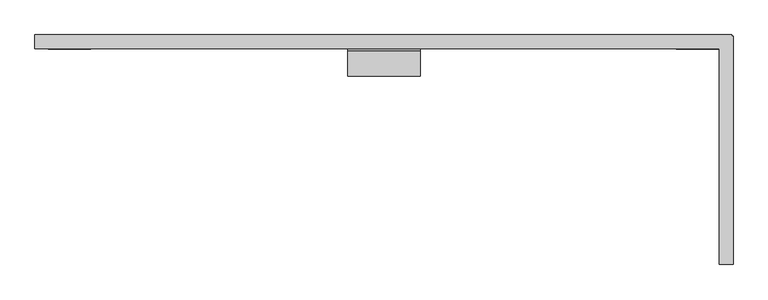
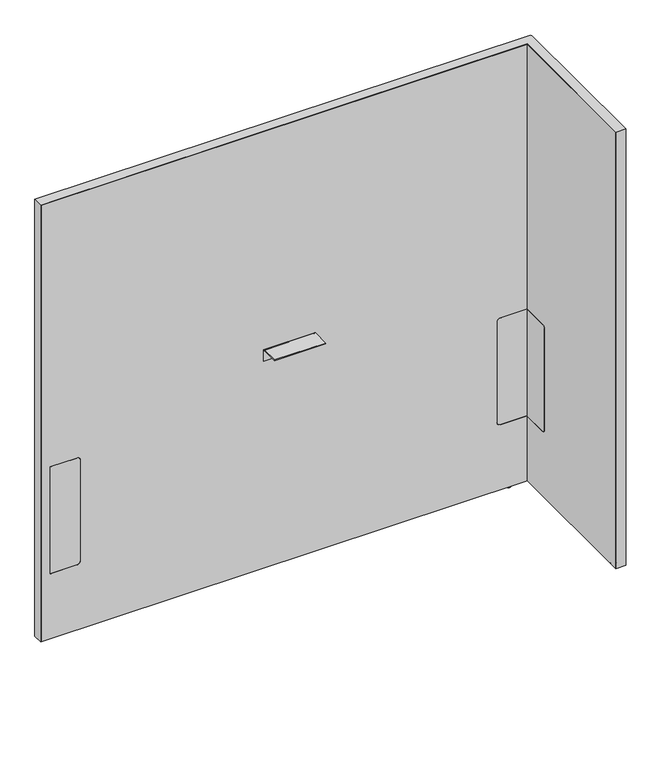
"""IFC4 building model written with IfcOpenShell, lengths in millimetres: furniture geometry, Steelcase - Answer Solution - Boundary Screen - L Return - Single Sided : 54H x 57W."""

from ifc_helpers import new_model, si_unit, point, frame, frame_2d, origin, place, context, project, spatial, polyline, circle_curve, ellipse_curve, trimmed, segment, composite_curve, outline, extrude, faceted_brep, source, transform, mapped, element, save
from ifc_brep_helpers import plane_surface, cylinder_surface, revolved_surface, advanced_brep


def furniture_e89757b0(model_context):
    return source(origin(), model_context, "Body", "SolidModel", [
        extrude(outline(composite_curve([segment(polyline([(-109.3501471, 549.6162029), (-29.0550397, 549.6162029), (-29.0550397, 213.7762137), (-109.3501471, 213.7762137)]), True, "CONTINUOUS"), segment(trimmed(circle_curve(frame_2d((-109.3501471, 223.9362137)), 10.16), [point((-109.3501471, 213.7762137))], [point((-119.5101471, 223.9362137))], False, "CARTESIAN"), True, "CONTINUOUS"), segment(polyline([(-119.5101471, 223.9362137), (-119.5101471, 539.4562029)]), True, "CONTINUOUS"), segment(trimmed(circle_curve(frame_2d((-109.3501471, 539.4562029)), 10.16), [point((-119.5101471, 539.4562029))], [point((-109.3501471, 549.6162029))], False, "CARTESIAN"), True, "CONTINUOUS")], self_intersect=False)), frame((1677.6191891, 0.0, 0.0), z_axis=(1.0, 0.0, 0.0), x_axis=(0.0, 1.0, 0.0)), (0.0, 0.0, 1.0), 0.6401544),
        advanced_brep(
        [(1692.4672074, -448.0136072, 0.0), (1699.4216144, -448.0136072, 0.0), (1685.5128003, -448.0136072, 0.0), (1700.8762685, -448.0136072, 1.2700001), (1684.0581463, -448.0136072, 1.2700001), (1700.8762685, -448.0136072, 2.9673238), (1684.0581463, -448.0136072, 2.9673238), (1701.8427877, -448.0136072, 2.9673238), (1683.091627, -448.0136072, 2.9673238), (1701.8427877, -448.0136072, 9.9059849), (1683.091627, -448.0136072, 9.9059849), (1692.4672074, -448.0136072, 9.9059849)],
        [
            (0, 1),
            (1, 2, circle_curve(frame((1692.4672074, -448.0136072, 0.0), z_axis=(0.0, 0.0, -1.0), x_axis=(1.0, 0.0, 0.0)), 6.9544071)),
            (2, 0),
            (2, 1, circle_curve(frame((1692.4672074, -448.0136072, 0.0), z_axis=(0.0, 0.0, -1.0), x_axis=(1.0, 0.0, 0.0)), 6.9544071)),
            (1, 3, circle_curve(frame((1699.5945484, -448.0136072, 1.2700001), z_axis=(0.0, -1.0, 0.0), x_axis=(0.0, 0.0, 1.0)), 1.2817201)),
            (3, 4, circle_curve(frame((1692.4672074, -448.0136072, 1.2700001), z_axis=(0.0, 0.0, -1.0), x_axis=(1.0, 0.0, 0.0)), 8.4090611)),
            (4, 2, circle_curve(frame((1685.3398663, -448.0136072, 1.2700001), z_axis=(0.0, -1.0, 0.0), x_axis=(0.0, 0.0, 1.0)), 1.2817201)),
            (4, 3, circle_curve(frame((1692.4672074, -448.0136072, 1.2700001), z_axis=(0.0, 0.0, -1.0), x_axis=(1.0, 0.0, 0.0)), 8.4090611)),
            (3, 5),
            (5, 6, circle_curve(frame((1692.4672074, -448.0136072, 2.9673238), z_axis=(0.0, 0.0, -1.0), x_axis=(1.0, 0.0, 0.0)), 8.4090611)),
            (6, 4),
            (6, 5, circle_curve(frame((1692.4672074, -448.0136072, 2.9673238), z_axis=(0.0, 0.0, -1.0), x_axis=(1.0, 0.0, 0.0)), 8.4090611)),
            (5, 7),
            (7, 8, circle_curve(frame((1692.4672074, -448.0136072, 2.9673238), z_axis=(0.0, 0.0, -1.0), x_axis=(1.0, 0.0, 0.0)), 9.3755804)),
            (8, 6),
            (8, 7, circle_curve(frame((1692.4672074, -448.0136072, 2.9673238), z_axis=(0.0, 0.0, -1.0), x_axis=(1.0, 0.0, 0.0)), 9.3755804)),
            (7, 9),
            (9, 10, circle_curve(frame((1692.4672074, -448.0136072, 9.9059849), z_axis=(0.0, 0.0, -1.0), x_axis=(1.0, 0.0, 0.0)), 9.3755804)),
            (10, 8),
            (10, 9, circle_curve(frame((1692.4672074, -448.0136072, 9.9059849), z_axis=(0.0, 0.0, -1.0), x_axis=(1.0, 0.0, 0.0)), 9.3755804)),
            (9, 11),
            (11, 10),
        ],
        [
            plane_surface(frame((1692.4672074, -448.0136072, 0.0), z_axis=(0.0, 0.0, -1.0), x_axis=(1.0, 0.0, 0.0))),
            revolved_surface(trimmed(ellipse_curve(frame((1699.5945484, -448.0136072, 1.2700001), z_axis=(0.0, 1.0, 0.0), x_axis=(0.0, 0.0, 1.0)), 1.2817201, 1.2817201), [point((1700.8762685, -448.0136072, 1.2700001))], [point((1699.4216144, -448.0136072, 0.0))], True, "CARTESIAN"), (1692.4672074, -448.0136072, 9.9059849), (0.0, 0.0, -1.0)),
            cylinder_surface(frame((1692.4672074, -448.0136072, 9.9059849), z_axis=(0.0, 0.0, -1.0), x_axis=(1.0, 0.0, 0.0)), 8.4090611),
            plane_surface(frame((1692.4672074, -448.0136072, 2.9673238), z_axis=(0.0, 0.0, -1.0), x_axis=(1.0, 0.0, 0.0))),
            cylinder_surface(frame((1692.4672074, -448.0136072, 9.9059849), z_axis=(0.0, 0.0, -1.0), x_axis=(1.0, 0.0, 0.0)), 9.3755804),
            plane_surface(frame((1692.4672074, -448.0136072, 9.9059849), z_axis=(0.0, 0.0, 1.0), x_axis=(1.0, 0.0, 0.0))),
        ],
        [
            (0, [[1, 2, 3]]),
            (0, [[-3, 4, -1]]),
            (1, [[-2, 5, 6, 7]]),
            (1, [[-4, -7, 8, -5]]),
            (2, [[-6, 9, 10, 11]]),
            (2, [[-8, -11, 12, -9]]),
            (3, [[-10, 13, 14, 15]]),
            (3, [[-12, -15, 16, -13]]),
            (4, [[-14, 17, 18, 19]]),
            (4, [[-16, -19, 20, -17]]),
            (5, [[-18, 21, 22]]),
            (5, [[-20, -22, -21]]),
        ],
    ),
        faceted_brep([(1704.0531179, 0.0, 1382.522), (1704.0531179, 0.0, 9.9059849), (1703.0621491, 0.0, 9.9059849), (1703.0621491, 0.0, 1381.542118), (230.8097779, 0.0, 1381.542118), (230.8097779, 0.0, 9.9059849), (229.8191891, 0.0, 9.9059849), (229.8191891, 0.0, 1382.522), (229.8191891, -29.6898332, 1382.522), (229.8191891, -29.6898332, 9.9059849), (230.8097779, -29.6898332, 9.9059849), (230.8097779, -29.6898332, 1381.542118), (1677.6191891, -29.6898332, 1381.542118), (1677.6191891, -29.6898332, 1382.522), (1703.0621491, -29.6898332, 1381.542118), (1703.0621491, -29.6898332, 9.9059849), (1704.0531179, -29.6898332, 9.9059849), (1704.0531179, -29.6898332, 1381.542118), (1704.0531179, -3.2625916, 1382.522), (1704.0531179, -3.2625916, 9.9059849), (1704.0531179, -4.252647, 9.9059849), (1704.0531179, -4.252647, 1381.542118), (1707.3152256, -3.2625916, 9.9059849), (1707.3152256, -4.252647, 9.9059849), (1703.0621491, -4.252647, 9.9059849), (1677.6191891, -4.252647, 9.9059849), (1677.6191891, -3.2625916, 9.9059849), (1703.0621491, -3.2625916, 9.9059849), (1677.6191891, -486.8898332, 1382.522), (1707.3152256, -486.8898332, 1382.522), (1707.3152256, -3.2625916, 1382.522), (1703.0621491, -3.2625916, 1381.542118), (1703.0621491, -4.252647, 1381.542118), (1677.6191891, -3.2625916, 1381.542118), (1677.6191891, -4.252647, 1381.542118), (1707.3152256, -4.252647, 1381.542118), (1707.3152256, -485.899196, 1381.542118), (1677.6191891, -485.899196, 1381.542118), (1677.6191891, -485.899196, 9.9059849), (1677.6191891, -486.8898332, 9.9059849), (1707.3152256, -486.8898332, 9.9059849), (1707.3152256, -485.899196, 9.9059849)], [[[0, 1, 2, 3, 4, 5, 6, 7]], [[8, 9, 10, 11, 12, 13]], [[14, 15, 16, 17]], [[1, 0, 18, 19]], [[17, 16, 20, 21]], [[2, 1, 19, 22, 23, 20, 16, 15, 24, 25, 26, 27]], [[7, 6, 9, 8]], [[0, 7, 8, 13, 28, 29, 30, 18]], [[3, 2, 27, 31]], [[15, 14, 32, 24]], [[4, 3, 31, 33, 34, 32, 14, 17, 21, 35, 36, 37, 12, 11]], [[5, 4, 11, 10]], [[6, 5, 10, 9]], [[26, 25, 34, 33]], [[37, 38, 39, 28, 13, 12]], [[29, 40, 41, 36, 35, 23, 22, 30]], [[27, 26, 33, 31]], [[30, 22, 19, 18]], [[34, 25, 24, 32]], [[23, 35, 21, 20]], [[38, 37, 36, 41]], [[39, 38, 41, 40]], [[28, 39, 40, 29]]]),
        extrude(outline(composite_curve([segment(polyline([(-86.8398151, 696.4680019), (-86.8398151, 698.5), (-34.9450855, 698.5)]), True, "CONTINUOUS"), segment(trimmed(circle_curve(frame_2d((-34.9450855, 693.2447477)), 5.2552523), [point((-34.9450855, 698.5))], [point((-29.6898332, 693.2447477))], False, "CARTESIAN"), True, "CONTINUOUS"), segment(polyline([(-29.6898332, 693.2447477), (-29.6898332, 660.4), (-31.7218162, 660.4), (-31.7218162, 693.0058743)]), True, "CONTINUOUS"), segment(trimmed(circle_curve(frame_2d((-35.1839438, 693.0058743)), 3.4621276), [point((-31.7218162, 693.0058743))], [point((-35.1839438, 696.4680019))], True, "CARTESIAN"), True, "CONTINUOUS"), segment(polyline([(-35.1839438, 696.4680019), (-86.8398151, 696.4680019)]), True, "CONTINUOUS")], self_intersect=False)), frame((892.3685899, 0.0, 0.0), z_axis=(1.0, 0.0, 0.0), x_axis=(0.0, 1.0, 0.0)), (0.0, 0.0, 1.0), 152.4000969),
        advanced_brep(
        [(1630.1246853, -23.7588726, 9.9059849), (1630.1246853, -5.9309607, 9.9059849), (1630.1246853, -14.8449166, 9.9059849), (1630.1246853, -23.7588726, 2.9673238), (1630.1246853, -5.9309607, 2.9673238), (1630.1246853, -22.7915354, 2.9673238), (1630.1246853, -6.8982978, 2.9673238), (1630.1246853, -22.7915354, 1.6569081), (1630.1246853, -6.8982978, 1.6569081), (1630.1246853, -21.1346274, 0.0), (1630.1246853, -8.5552059, 0.0), (1630.1246853, -14.8449166, 0.0)],
        [
            (0, 1, circle_curve(frame((1630.1246853, -14.8449166, 9.9059849), z_axis=(0.0, 0.0, 1.0), x_axis=(0.0, 1.0, 0.0)), 8.913956)),
            (1, 2),
            (2, 0),
            (1, 0, circle_curve(frame((1630.1246853, -14.8449166, 9.9059849), z_axis=(0.0, 0.0, 1.0), x_axis=(0.0, 1.0, 0.0)), 8.913956)),
            (3, 4, circle_curve(frame((1630.1246853, -14.8449166, 2.9673238), z_axis=(0.0, 0.0, 1.0), x_axis=(0.0, 1.0, 0.0)), 8.913956)),
            (4, 1),
            (0, 3),
            (4, 3, circle_curve(frame((1630.1246853, -14.8449166, 2.9673238), z_axis=(0.0, 0.0, 1.0), x_axis=(0.0, 1.0, 0.0)), 8.913956)),
            (5, 6, circle_curve(frame((1630.1246853, -14.8449166, 2.9673238), z_axis=(0.0, 0.0, 1.0), x_axis=(0.0, 1.0, 0.0)), 7.9466188)),
            (6, 4),
            (3, 5),
            (6, 5, circle_curve(frame((1630.1246853, -14.8449166, 2.9673238), z_axis=(0.0, 0.0, 1.0), x_axis=(0.0, 1.0, 0.0)), 7.9466188)),
            (7, 8, circle_curve(frame((1630.1246853, -14.8449166, 1.6569081), z_axis=(0.0, 0.0, 1.0), x_axis=(0.0, 1.0, 0.0)), 7.9466188)),
            (8, 6),
            (5, 7),
            (8, 7, circle_curve(frame((1630.1246853, -14.8449166, 1.6569081), z_axis=(0.0, 0.0, 1.0), x_axis=(0.0, 1.0, 0.0)), 7.9466188)),
            (9, 10, circle_curve(frame((1630.1246853, -14.8449166, 0.0), z_axis=(0.0, 0.0, 1.0), x_axis=(0.0, 1.0, 0.0)), 6.2897107)),
            (10, 8, circle_curve(frame((1630.1246853, -8.5552059, 1.6569081), z_axis=(1.0, 0.0, 0.0), x_axis=(0.0, 1.0, 0.0)), 1.6569081)),
            (7, 9, circle_curve(frame((1630.1246853, -21.1346274, 1.6569081), z_axis=(1.0, 0.0, 0.0), x_axis=(0.0, -1.0, 0.0)), 1.6569081)),
            (10, 9, circle_curve(frame((1630.1246853, -14.8449166, 0.0), z_axis=(0.0, 0.0, 1.0), x_axis=(0.0, 1.0, 0.0)), 6.2897107)),
            (11, 10),
            (9, 11),
        ],
        [
            plane_surface(frame((1630.1246853, -14.8449166, 9.9059849), z_axis=(0.0, 0.0, 1.0), x_axis=(0.0, 1.0, 0.0))),
            cylinder_surface(frame((1630.1246853, -14.8449166, 9.9059849), z_axis=(0.0, 0.0, -1.0), x_axis=(0.0, 1.0, 0.0)), 8.913956),
            plane_surface(frame((1630.1246853, -14.8449166, 2.9673238), z_axis=(0.0, 0.0, -1.0), x_axis=(0.0, 1.0, 0.0))),
            cylinder_surface(frame((1630.1246853, -14.8449166, 9.9059849), z_axis=(0.0, 0.0, -1.0), x_axis=(0.0, 1.0, 0.0)), 7.9466188),
            revolved_surface(trimmed(ellipse_curve(frame((1630.1246853, -8.5552059, 1.6569081), z_axis=(-1.0, 0.0, 0.0), x_axis=(0.0, 1.0, 0.0)), 1.6569081, 1.6569081), [point((1630.1246853, -6.8982978, 1.6569081))], [point((1630.1246853, -8.5552059, 0.0))], True, "CARTESIAN"), (1630.1246853, -14.8449166, 9.9059849), (0.0, 0.0, -1.0)),
            plane_surface(frame((1630.1246853, -14.8449166, 0.0), z_axis=(0.0, 0.0, -1.0), x_axis=(0.0, 1.0, 0.0))),
        ],
        [
            (0, [[1, 2, 3]]),
            (0, [[4, -3, -2]]),
            (1, [[5, 6, -1, 7]]),
            (1, [[8, -7, -4, -6]]),
            (2, [[9, 10, -5, 11]]),
            (2, [[12, -11, -8, -10]]),
            (3, [[13, 14, -9, 15]]),
            (3, [[16, -15, -12, -14]]),
            (4, [[17, 18, -13, 19]]),
            (4, [[20, -19, -16, -18]]),
            (5, [[21, -17, 22]]),
            (5, [[-22, -20, -21]]),
        ],
    ),
        advanced_brep(
        [(230.8097779, 0.0, 1381.542118), (1703.0621491, 0.0, 1381.542118), (1703.0621491, 0.0, 9.9059849), (230.8097779, 0.0, 9.9059849), (347.9483813, -29.0550397, 539.4562029), (337.7883813, -29.0550397, 549.6162029), (258.1344836, -29.0550397, 549.6162029), (258.1344836, -29.0550397, 213.7762137), (337.7883813, -29.0550397, 213.7762137), (347.9483813, -29.0550397, 223.9362137), (1678.2593435, -29.0550397, 213.7762137), (1678.2593435, -29.0550397, 549.6162029), (1597.7109268, -29.0550397, 549.6162029), (1587.5509268, -29.0550397, 539.4562029), (1587.5509268, -29.0550397, 223.9362137), (1597.7109268, -29.0550397, 213.7762137), (230.8097779, -29.6898332, 1381.542118), (230.8097779, -29.6898332, 9.9059849), (1677.6191891, -29.6898332, 9.9059849), (1677.6191891, -29.6898332, 213.7762137), (1597.7109268, -29.6898332, 213.7762137), (1587.5509268, -29.6898332, 223.9362137), (1587.5509268, -29.6898332, 539.4562029), (1597.7109268, -29.6898332, 549.6162029), (1677.6191891, -29.6898332, 549.6162029), (1677.6191891, -29.6898332, 1381.542118), (337.7883813, -29.6898332, 549.6162029), (347.9483813, -29.6898332, 539.4562029), (347.9483813, -29.6898332, 223.9362137), (337.7883813, -29.6898332, 213.7762137), (258.1344836, -29.6898332, 213.7762137), (258.1344836, -29.6898332, 549.6162029), (1703.0621491, -4.252647, 9.9059849), (1707.3152256, -4.252647, 9.9059849), (1707.3152256, -485.899196, 9.9059849), (1677.6191891, -485.899196, 9.9059849), (1703.0621491, -4.252647, 1381.542118), (1677.6191891, -485.899196, 1381.542118), (1707.3152256, -485.899196, 1381.542118), (1707.3152256, -4.252647, 1381.542118), (1678.2593435, -109.3501471, 549.6162029), (1677.6191891, -109.3501471, 549.6162029), (1678.2593435, -109.3501471, 213.7762137), (1678.2593435, -119.5101471, 223.9362137), (1678.2593435, -119.5101471, 539.4562029), (1677.6191891, -109.3501471, 213.7762137), (1677.6191891, -119.5101471, 539.4562029), (1677.6191891, -119.5101471, 223.9362137)],
        [
            (0, 1),
            (1, 2),
            (2, 3),
            (3, 0),
            (4, 5, circle_curve(frame((337.7883813, -29.0550397, 539.4562029), z_axis=(0.0, -1.0, 0.0), x_axis=(0.0, 0.0, 1.0)), 10.16)),
            (5, 6),
            (6, 7),
            (7, 8),
            (8, 9, circle_curve(frame((337.7883813, -29.0550397, 223.9362137), z_axis=(0.0, -1.0, 0.0), x_axis=(0.0, 0.0, 1.0)), 10.16)),
            (9, 4),
            (10, 11),
            (11, 12),
            (12, 13, circle_curve(frame((1597.7109268, -29.0550397, 539.4562029), z_axis=(0.0, -1.0, 0.0), x_axis=(0.0, 0.0, 1.0)), 10.16)),
            (13, 14),
            (14, 15, circle_curve(frame((1597.7109268, -29.0550397, 223.9362137), z_axis=(0.0, -1.0, 0.0), x_axis=(0.0, 0.0, 1.0)), 10.16)),
            (15, 10),
            (16, 17),
            (17, 18),
            (18, 19),
            (19, 20),
            (20, 21, circle_curve(frame((1597.7109268, -29.6898332, 223.9362137), z_axis=(0.0, 1.0, 0.0), x_axis=(0.0, 0.0, 1.0)), 10.16)),
            (21, 22),
            (22, 23, circle_curve(frame((1597.7109268, -29.6898332, 539.4562029), z_axis=(0.0, 1.0, 0.0), x_axis=(0.0, 0.0, 1.0)), 10.16)),
            (23, 24),
            (24, 25),
            (25, 16),
            (26, 27, circle_curve(frame((337.7883813, -29.6898332, 539.4562029), z_axis=(0.0, 1.0, 0.0), x_axis=(0.0, 0.0, 1.0)), 10.16)),
            (27, 28),
            (28, 29, circle_curve(frame((337.7883813, -29.6898332, 223.9362137), z_axis=(0.0, 1.0, 0.0), x_axis=(0.0, 0.0, 1.0)), 10.16)),
            (29, 30),
            (30, 31),
            (31, 26),
            (16, 0),
            (3, 17),
            (2, 32),
            (32, 33),
            (33, 34),
            (34, 35),
            (35, 18),
            (1, 36),
            (36, 32),
            (25, 37),
            (37, 38),
            (38, 39),
            (39, 36),
            (26, 5),
            (4, 27),
            (9, 28),
            (8, 29),
            (7, 30),
            (6, 31),
            (11, 40),
            (40, 41),
            (41, 24),
            (23, 12),
            (42, 43, circle_curve(frame((1678.2593435, -109.3501471, 223.9362137), z_axis=(-1.0, 0.0, 0.0), x_axis=(0.0, 1.0, 0.0)), 10.16)),
            (43, 44),
            (44, 40, circle_curve(frame((1678.2593435, -109.3501471, 539.4562029), z_axis=(-1.0, 0.0, 0.0), x_axis=(0.0, 1.0, 0.0)), 10.16)),
            (10, 42),
            (15, 20),
            (19, 45),
            (45, 42),
            (14, 21),
            (13, 22),
            (35, 37),
            (41, 46, circle_curve(frame((1677.6191891, -109.3501471, 539.4562029), z_axis=(1.0, 0.0, 0.0), x_axis=(0.0, 1.0, 0.0)), 10.16)),
            (46, 47),
            (47, 45, circle_curve(frame((1677.6191891, -109.3501471, 223.9362137), z_axis=(1.0, 0.0, 0.0), x_axis=(0.0, 1.0, 0.0)), 10.16)),
            (38, 34),
            (33, 39),
            (44, 46),
            (43, 47),
        ],
        [
            plane_surface(frame((347.9483813, 0.0, 549.6162029), z_axis=(0.0, 1.0, 0.0), x_axis=(0.0, 0.0, -1.0))),
            plane_surface(frame((347.9483813, -29.0550397, 549.6162029), z_axis=(0.0, -1.0, 0.0), x_axis=(0.0, 0.0, 1.0))),
            plane_surface(frame((1703.0621491, -29.6898332, 1381.542118), z_axis=(0.0, -1.0, 0.0), x_axis=(-1.0, 0.0, 0.0))),
            plane_surface(frame((230.8097779, 0.0, 9.9059849), z_axis=(-1.0, 0.0, 0.0), x_axis=(0.0, -1.0, 0.0))),
            plane_surface(frame((1703.0621491, 0.0, 9.9059849), z_axis=(0.0, 0.0, -1.0), x_axis=(0.0, -1.0, 0.0))),
            plane_surface(frame((1703.0621491, 0.0, 1381.542118), z_axis=(1.0, 0.0, 0.0), x_axis=(0.0, -1.0, 0.0))),
            plane_surface(frame((230.8097779, 0.0, 1381.542118), z_axis=(0.0, 0.0, 1.0), x_axis=(0.0, -1.0, 0.0))),
            revolved_surface(polyline([(337.7883813, -29.6898332, 549.6162029), (337.7883813, -29.0550397, 549.6162029)]), (337.7883813, -29.6898332, 539.4562029), (0.0, -1.0, 0.0)),
            plane_surface(frame((347.9483813, 0.0, 223.9362137), z_axis=(-1.0, 0.0, 0.0), x_axis=(0.0, -1.0, 0.0))),
            revolved_surface(polyline([(337.7883813, -29.6898332, 234.0962137), (337.7883813, -29.0550397, 234.0962137)]), (337.7883813, -29.6898332, 223.9362137), (0.0, -1.0, 0.0)),
            plane_surface(frame((258.1344836, 0.0, 213.7762137), z_axis=(0.0, 0.0, 1.0), x_axis=(0.0, -1.0, 0.0))),
            plane_surface(frame((258.1344836, 0.0, 549.6162029), z_axis=(1.0, 0.0, 0.0), x_axis=(0.0, -1.0, 0.0))),
            plane_surface(frame((337.7883813, 0.0, 549.6162029), z_axis=(0.0, 0.0, -1.0), x_axis=(0.0, -1.0, 0.0))),
            plane_surface(frame((1678.2593435, 0.0, 549.6162029), z_axis=(0.0, 0.0, -1.0), x_axis=(0.0, -1.0, 0.0))),
            plane_surface(frame((1678.2593435, 0.0, 213.7762137), z_axis=(-1.0, 0.0, 0.0), x_axis=(0.0, -1.0, 0.0))),
            plane_surface(frame((1597.7109268, 0.0, 213.7762137), z_axis=(0.0, 0.0, 1.0), x_axis=(0.0, -1.0, 0.0))),
            revolved_surface(polyline([(1597.7109268, -29.6898332, 234.0962137), (1597.7109268, -29.0550397, 234.0962137)]), (1597.7109268, -29.6898332, 223.9362137), (0.0, -1.0, 0.0)),
            plane_surface(frame((1587.5509268, 0.0, 539.4562029), z_axis=(1.0, 0.0, 0.0), x_axis=(0.0, -1.0, 0.0))),
            revolved_surface(polyline([(1597.7109268, -29.6898332, 549.6162029), (1597.7109268, -29.0550397, 549.6162029)]), (1597.7109268, -29.6898332, 539.4562029), (0.0, -1.0, 0.0)),
            plane_surface(frame((1677.6191891, -485.899196, 1381.542118), z_axis=(-1.0, 0.0, 0.0), x_axis=(0.0, 0.0, 1.0))),
            plane_surface(frame((1707.3152256, -485.899196, 1381.542118), z_axis=(1.0, 0.0, 0.0), x_axis=(0.0, 0.0, -1.0))),
            plane_surface(frame((1707.3152256, -4.252647, 9.9059849), z_axis=(0.0, 1.0, 0.0), x_axis=(-1.0, 0.0, 0.0))),
            plane_surface(frame((1707.3152256, -485.899196, 1381.542118), z_axis=(0.0, -1.0, 0.0), x_axis=(-1.0, 0.0, 0.0))),
            revolved_surface(polyline([(1677.6191891, -99.1901471, 539.4562029), (1678.2593435, -99.1901471, 539.4562029)]), (-340.6902705, -109.3501471, 539.4562029), (-1.0, 0.0, 0.0)),
            plane_surface(frame((1707.3152256, -119.5101471, 223.9362137), z_axis=(0.0, 1.0, 0.0), x_axis=(-1.0, 0.0, 0.0))),
            revolved_surface(polyline([(1677.6191891, -99.1901471, 223.9362137), (1678.2593435, -99.1901471, 223.9362137)]), (-340.6902705, -109.3501471, 223.9362137), (-1.0, 0.0, 0.0)),
        ],
        [
            (0, [[1, 2, 3, 4]]),
            (1, [[5, 6, 7, 8, 9, 10]]),
            (1, [[11, 12, 13, 14, 15, 16]]),
            (2, [[17, 18, 19, 20, 21, 22, 23, 24, 25, 26], [27, 28, 29, 30, 31, 32]]),
            (3, [[-17, 33, -4, 34]]),
            (4, [[-3, 35, 36, 37, 38, 39, -18, -34]]),
            (5, [[-2, 40, 41, -35]]),
            (6, [[-1, -33, -26, 42, 43, 44, 45, -40]]),
            (7, [[-27, 46, -5, 47]]),
            (8, [[-28, -47, -10, 48]]),
            (9, [[-29, -48, -9, 49]]),
            (10, [[-30, -49, -8, 50]]),
            (11, [[-31, -50, -7, 51]]),
            (12, [[-32, -51, -6, -46]]),
            (13, [[52, 53, 54, -24, 55, -12]]),
            (14, [[56, 57, 58, -52, -11, 59]]),
            (15, [[-59, -16, 60, -20, 61, 62]]),
            (16, [[-21, -60, -15, 63]]),
            (17, [[-22, -63, -14, 64]]),
            (18, [[-23, -64, -13, -55]]),
            (19, [[65, -42, -25, -54, 66, 67, 68, -61, -19, -39]]),
            (20, [[69, -37, 70, -44]]),
            (21, [[-70, -36, -41, -45]]),
            (22, [[-65, -38, -69, -43]]),
            (23, [[-66, -53, -58, 71]]),
            (24, [[-67, -71, -57, 72]]),
            (25, [[-68, -72, -56, -62]]),
        ],
    ),
        extrude(outline(composite_curve([segment(polyline([(549.6162029, 337.7883813), (549.6162029, 258.1344836), (213.7762137, 258.1344836), (213.7762137, 337.7883813)]), True, "CONTINUOUS"), segment(trimmed(circle_curve(frame_2d((223.9362137, 337.7883813)), 10.16), [point((213.7762137, 337.7883813))], [point((223.9362137, 347.9483813))], False, "CARTESIAN"), True, "CONTINUOUS"), segment(polyline([(223.9362137, 347.9483813), (539.4562029, 347.9483813)]), True, "CONTINUOUS"), segment(trimmed(circle_curve(frame_2d((539.4562029, 337.7883813)), 10.16), [point((539.4562029, 347.9483813))], [point((549.6162029, 337.7883813))], False, "CARTESIAN"), True, "CONTINUOUS")], self_intersect=False)), frame((0.0, -29.6898332, 0.0), z_axis=(0.0, 1.0, 0.0), x_axis=(0.0, 0.0, 1.0)), (0.0, 0.0, 1.0), 0.6347935),
        extrude(outline(composite_curve([segment(trimmed(circle_curve(frame_2d((539.4562029, 1597.7109268)), 10.16), [point((549.6162029, 1597.7109268))], [point((539.4562029, 1587.5509268))], False, "CARTESIAN"), True, "CONTINUOUS"), segment(polyline([(539.4562029, 1587.5509268), (223.9362137, 1587.5509268)]), True, "CONTINUOUS"), segment(trimmed(circle_curve(frame_2d((223.9362137, 1597.7109268)), 10.16), [point((223.9362137, 1587.5509268))], [point((213.7762137, 1597.7109268))], False, "CARTESIAN"), True, "CONTINUOUS"), segment(polyline([(213.7762137, 1597.7109268), (213.7762137, 1677.6191891), (549.6162029, 1677.6191891), (549.6162029, 1597.7109268)]), True, "CONTINUOUS")], self_intersect=False)), frame((0.0, -29.6898332, 0.0), z_axis=(0.0, 1.0, 0.0), x_axis=(0.0, 0.0, 1.0)), (0.0, 0.0, 1.0), 0.6347935),
    ])


if __name__ == "__main__":
    model = new_model("IFC4")
    model_context = context("Model", 3, world=origin())
    ifc_project = project(units=[si_unit("LENGTHUNIT", "METRE", prefix="MILLI")], contexts=[model_context])
    site = spatial("IfcSite", under=ifc_project)
    building = spatial("IfcBuilding", under=site)
    placement = place(None, origin())
    furniture_shape = furniture_e89757b0(model_context)
    element("IfcFurniture", 1, ObjectType="Steelcase - Answer Solution - Boundary Screen - L Return - Single Sided : 54H x 57W", at=placement, inside=building, context=model_context, shape_type="MappedRepresentation", body=[
        mapped(furniture_shape, transform((0.0, 0.0, 0.0), x_axis=(1.0, 0.0, 0.0), y_axis=(0.0, 1.0, 0.0), z_axis=(0.0, 0.0, 1.0))),
    ])
    save(model, "model.ifc")
